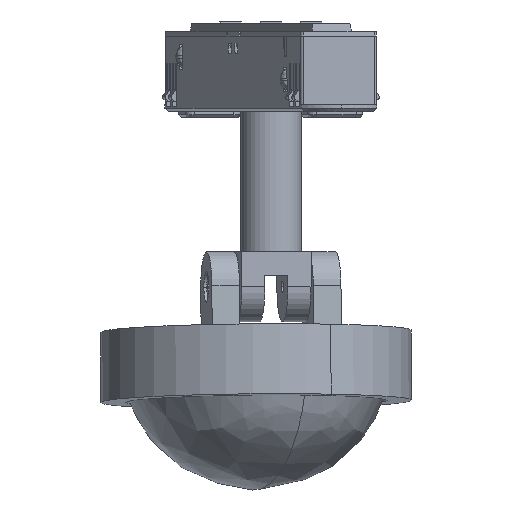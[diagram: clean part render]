
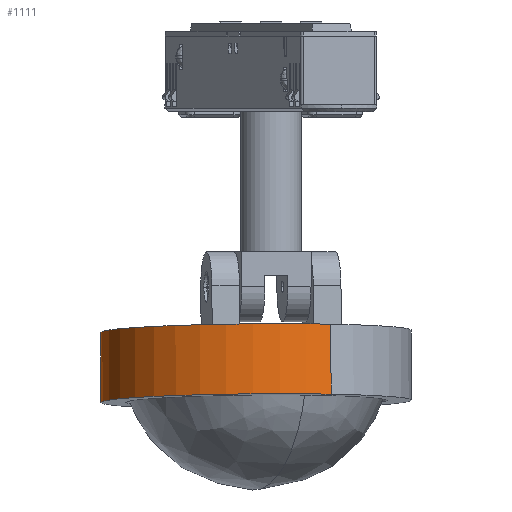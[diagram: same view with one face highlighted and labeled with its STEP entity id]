
A CAD part, left-side view. The second image highlights one B-rep face of the part: STEP entity #1111.
In plain terms, the highlighted cylindrical face has radius 33.25 mm (diameter 66.5 mm), a partial arc.
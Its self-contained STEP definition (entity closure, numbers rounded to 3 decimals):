
#556 = AXIS2_PLACEMENT_3D ( 'NONE', #40428, #62687, #12666 ) ;
#1111 = ADVANCED_FACE ( 'NONE', ( #68175 ), #18152, .T. ) ;
#2331 = LINE ( 'NONE', #24615, #37501 ) ;
#4651 = ORIENTED_EDGE ( 'NONE', *, *, #41482, .F. ) ;
#6729 = CARTESIAN_POINT ( 'NONE',  ( 0., -2.935, -33.25 ) ) ;
#7258 = DIRECTION ( 'NONE',  ( 0., -1., 0. ) ) ;
#10332 = AXIS2_PLACEMENT_3D ( 'NONE', #57276, #7258, #29549 ) ;
#10451 = CIRCLE ( 'NONE', #51277, 33.25 ) ;
#10559 = VECTOR ( 'NONE', #65257, 1000. ) ;
#12666 = DIRECTION ( 'NONE',  ( 0., 0., 1. ) ) ;
#17014 = DIRECTION ( 'NONE',  ( 0., 1., 0. ) ) ;
#18152 = CYLINDRICAL_SURFACE ( 'NONE', #556, 33.25 ) ;
#20196 = VERTEX_POINT ( 'NONE', #28946 ) ;
#20697 = LINE ( 'NONE', #42983, #10559 ) ;
#22551 = VERTEX_POINT ( 'NONE', #68081 ) ;
#24615 = CARTESIAN_POINT ( 'NONE',  ( 0., -13.393, -33.25 ) ) ;
#28946 = CARTESIAN_POINT ( 'NONE',  ( 0., -2.935, 33.25 ) ) ;
#29416 = ORIENTED_EDGE ( 'NONE', *, *, #55072, .T. ) ;
#29549 = DIRECTION ( 'NONE',  ( 0., 0., 1. ) ) ;
#35152 = EDGE_LOOP ( 'NONE', ( #29416, #46534, #72227, #4651 ) ) ;
#37501 = VECTOR ( 'NONE', #46897, 1000. ) ;
#39303 = DIRECTION ( 'NONE',  ( 0., 0., 1. ) ) ;
#40428 = CARTESIAN_POINT ( 'NONE',  ( 0., -13.393, 0. ) ) ;
#40567 = VERTEX_POINT ( 'NONE', #69429 ) ;
#41482 = EDGE_CURVE ( 'NONE', #22551, #20196, #20697, .T. ) ;
#41818 = CIRCLE ( 'NONE', #10332, 33.25 ) ;
#42983 = CARTESIAN_POINT ( 'NONE',  ( 0., -13.393, 33.25 ) ) ;
#43804 = EDGE_CURVE ( 'NONE', #56123, #20196, #41818, .T. ) ;
#46534 = ORIENTED_EDGE ( 'NONE', *, *, #61483, .T. ) ;
#46897 = DIRECTION ( 'NONE',  ( 0., 1., 0. ) ) ;
#51277 = AXIS2_PLACEMENT_3D ( 'NONE', #67047, #17014, #39303 ) ;
#55072 = EDGE_CURVE ( 'NONE', #22551, #40567, #10451, .T. ) ;
#56123 = VERTEX_POINT ( 'NONE', #6729 ) ;
#57276 = CARTESIAN_POINT ( 'NONE',  ( 0., -2.935, 0. ) ) ;
#61483 = EDGE_CURVE ( 'NONE', #40567, #56123, #2331, .T. ) ;
#62687 = DIRECTION ( 'NONE',  ( 0., 1., 0. ) ) ;
#65257 = DIRECTION ( 'NONE',  ( 0., 1., 0. ) ) ;
#67047 = CARTESIAN_POINT ( 'NONE',  ( 0., -17.935, 0. ) ) ;
#68081 = CARTESIAN_POINT ( 'NONE',  ( 0., -17.935, 33.25 ) ) ;
#68175 = FACE_OUTER_BOUND ( 'NONE', #35152, .T. ) ;
#69429 = CARTESIAN_POINT ( 'NONE',  ( 0., -17.935, -33.25 ) ) ;
#72227 = ORIENTED_EDGE ( 'NONE', *, *, #43804, .T. ) ;
